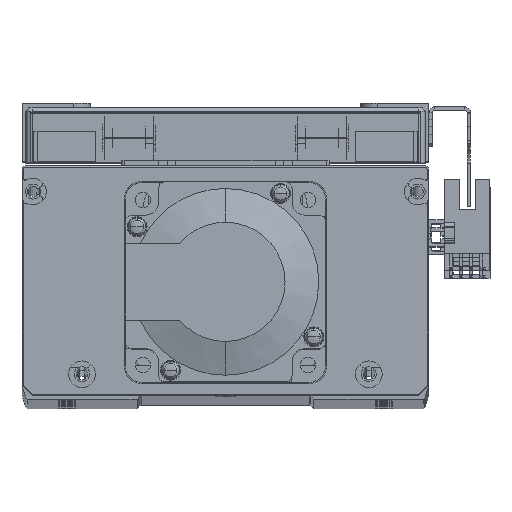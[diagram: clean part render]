
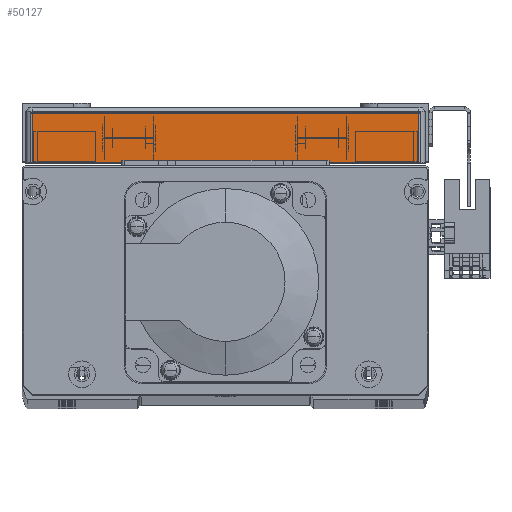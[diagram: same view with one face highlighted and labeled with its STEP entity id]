
A CAD part, top view. The second image highlights one B-rep face of the part: STEP entity #50127.
In plain terms, the highlighted planar face has unit normal (0, 0, 1) as drawn and (1, 0, 0) by its records, which use the part's own axes.
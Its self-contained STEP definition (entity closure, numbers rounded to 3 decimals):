
#560 = PLANE ( 'NONE',  #44138 ) ;
#563 = CARTESIAN_POINT ( 'NONE',  ( 85.5, 16.5, -60. ) ) ;
#604 = DIRECTION ( 'NONE',  ( -1., 0., 0. ) ) ;
#605 = DIRECTION ( 'NONE',  ( 0., 0., 1. ) ) ;
#4903 = EDGE_LOOP ( 'NONE', ( #17882, #17972, #17911, #17876 ) ) ;
#6309 = CARTESIAN_POINT ( 'NONE',  ( 85.5, 0., 58. ) ) ;
#6313 = CARTESIAN_POINT ( 'NONE',  ( 85.5, 0., -58. ) ) ;
#6324 = CARTESIAN_POINT ( 'NONE',  ( 85.5, 15.5, 58. ) ) ;
#6338 = CARTESIAN_POINT ( 'NONE',  ( 85.5, 15.5, -58. ) ) ;
#9132 = CARTESIAN_POINT ( 'NONE',  ( 85.5, 16.5, -58. ) ) ;
#9137 = DIRECTION ( 'NONE',  ( 0., 1., 0. ) ) ;
#9220 = LINE ( 'NONE', #9132, #9239 ) ;
#9239 = VECTOR ( 'NONE', #9137, 1000. ) ;
#9247 = LINE ( 'NONE', #10669, #9297 ) ;
#9297 = VECTOR ( 'NONE', #10662, 1000. ) ;
#9361 = LINE ( 'NONE', #10697, #9371 ) ;
#9371 = VECTOR ( 'NONE', #10710, 1000. ) ;
#9422 = LINE ( 'NONE', #10773, #9438 ) ;
#9438 = VECTOR ( 'NONE', #10805, 1000. ) ;
#10662 = DIRECTION ( 'NONE',  ( 0., 0., -1. ) ) ;
#10669 = CARTESIAN_POINT ( 'NONE',  ( 85.5, 0., -60. ) ) ;
#10697 = CARTESIAN_POINT ( 'NONE',  ( 85.5, 16.5, 58. ) ) ;
#10710 = DIRECTION ( 'NONE',  ( 0., -1., 0. ) ) ;
#10773 = CARTESIAN_POINT ( 'NONE',  ( 85.5, 15.5, 58. ) ) ;
#10805 = DIRECTION ( 'NONE',  ( 0., 0., 1. ) ) ;
#17876 = ORIENTED_EDGE ( 'NONE', *, *, #44161, .T. ) ;
#17882 = ORIENTED_EDGE ( 'NONE', *, *, #44100, .T. ) ;
#17911 = ORIENTED_EDGE ( 'NONE', *, *, #44186, .T. ) ;
#17972 = ORIENTED_EDGE ( 'NONE', *, *, #44248, .T. ) ;
#44100 = EDGE_CURVE ( 'NONE', #54597, #54562, #9220, .T. ) ;
#44138 = AXIS2_PLACEMENT_3D ( 'NONE', #563, #604, #605 ) ;
#44161 = EDGE_CURVE ( 'NONE', #54570, #54597, #9247, .T. ) ;
#44186 = EDGE_CURVE ( 'NONE', #54607, #54570, #9361, .T. ) ;
#44248 = EDGE_CURVE ( 'NONE', #54562, #54607, #9422, .T. ) ;
#50127 = ADVANCED_FACE ( 'NONE', ( #61383 ), #560, .F. ) ;
#54562 = VERTEX_POINT ( 'NONE', #6338 ) ;
#54570 = VERTEX_POINT ( 'NONE', #6309 ) ;
#54597 = VERTEX_POINT ( 'NONE', #6313 ) ;
#54607 = VERTEX_POINT ( 'NONE', #6324 ) ;
#61383 = FACE_OUTER_BOUND ( 'NONE', #4903, .T. ) ;
